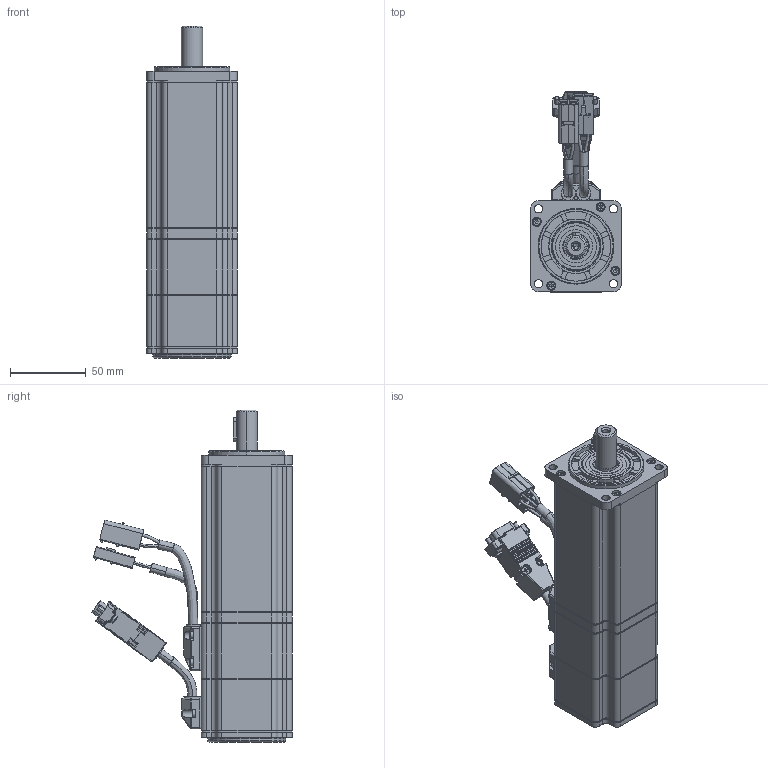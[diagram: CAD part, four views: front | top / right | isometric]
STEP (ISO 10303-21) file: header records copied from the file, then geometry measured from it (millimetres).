
FILE_DESCRIPTION (( 'STEP AP203' ), '1' );
FILE_NAME ('L60-4030X6XBL（SMH60-4030X6XBL-XX）.STEP', '2016-06-04T05:11:24', ( '微软用户' ), ( '微软中国' ), 'SwSTEP 2.0', 'SolidWorks 2011', '' );
FILE_SCHEMA (( 'CONFIG_CONTROL_DESIGN' ));
Products named in the file (29): L60-4030X6XBL（SMH60-4030X6XBL-XX）; hexagon socket head cap screws gb_GB_FASTENER_SCREWS_HSHCS M2.5X8-N; 价陬欶; 晤鎢ん竘盄菜; 晤鎢ん竘盄碟; 嘎殤蚐猾; hexagon socket head cap screws gb_GB_FASTENER_SCREWS_HSHCS M2.5X10-N; cross recessed countersunk head screws gb1_GB_CROSS_SCREWS_TYPE4 M2.5X10-8.5  H type-N; circlips for holes--type a gb_GB_CONNECTING_PIECE_RING_RRH 32; 瑩; 竘盄碟; 竘盄菜; 鎢攫欶綴裔; 鎢攫欶; 躇猾菜; 蛌赽軞傖; circlips for holes--type a gb_GB_CONNECTING_PIECE_RING_RRH 26; 綴傷裔И璃; Deep groove ball bearings GB_Rolling bearings 6002 GB 276-94; Deep groove ball bearings GB_Rolling bearings 6000 GB 276-94; Circlips for shaft--Type A large GB_GB_CONNECTING_PIECE_RING_RRA 10; 綴傷裔; 蛌赽郪璃_Default; 蛌粣; 隅赽軞傖; hexagon socket head cap screws gb_GB_FASTENER_SCREWS_HSHCS M3X12-N; 儂褲; ヶ傷裔И璃; ヶ傷裔
Assembly tree (45 placements, depth 4):
  L60-4030X6XBL（SMH60-4030X6XBL-XX）
    蛌赽軞傖
      蛌赽郪璃_Default
        蛌粣
      circlips for holes--type a gb_GB_CONNECTING_PIECE_RING_RRH 26
      綴傷裔И璃
      Deep groove ball bearings GB_Rolling bearings 6002 GB 276-94
      Deep groove ball bearings GB_Rolling bearings 6000 GB 276-94
      Circlips for shaft--Type A large GB_GB_CONNECTING_PIECE_RING_RRA 10
      綴傷裔
    晤鎢ん竘盄碟
    嘎殤蚐猾
    hexagon socket head cap screws gb_GB_FASTENER_SCREWS_HSHCS M2.5X10-N  x4
    hexagon socket head cap screws gb_GB_FASTENER_SCREWS_HSHCS M2.5X8-N  x2
    hexagon socket head cap screws gb_GB_FASTENER_SCREWS_HSHCS M3X12-N  x4
    cross recessed countersunk head screws gb1_GB_CROSS_SCREWS_TYPE4 M2.5X10-8.5  H type-N  x4
    circlips for holes--type a gb_GB_CONNECTING_PIECE_RING_RRH 32
    躇猾菜  x4
    价陬欶
    晤鎢ん竘盄菜
    瑩
    竘盄碟
    竘盄菜
    鎢攫欶綴裔
    鎢攫欶
    隅赽軞傖
      hexagon socket head cap screws gb_GB_FASTENER_SCREWS_HSHCS M3X12-N  x4
      儂褲
      ヶ傷裔И璃
      ヶ傷裔
Bounding box: 60 x 132.21 x 219.2 mm (x, y, z)
Volume: 243552.8 mm3; surface area: 174967.2 mm2
Topology: 60 solids, 60 shells, 3241 faces, 8760 edges, 5463 vertices
Faces by surface type: cylinder 1386, plane 1153, torus 215, cone 185, sphere 170, bspline 132
Entity records: 96713 total; most frequent: CARTESIAN_POINT 25035, DIRECTION 14531, ORIENTED_EDGE 14360, EDGE_CURVE 7180, AXIS2_PLACEMENT_3D 5628, VERTEX_POINT 4570, VECTOR 3275, LINE 3275
